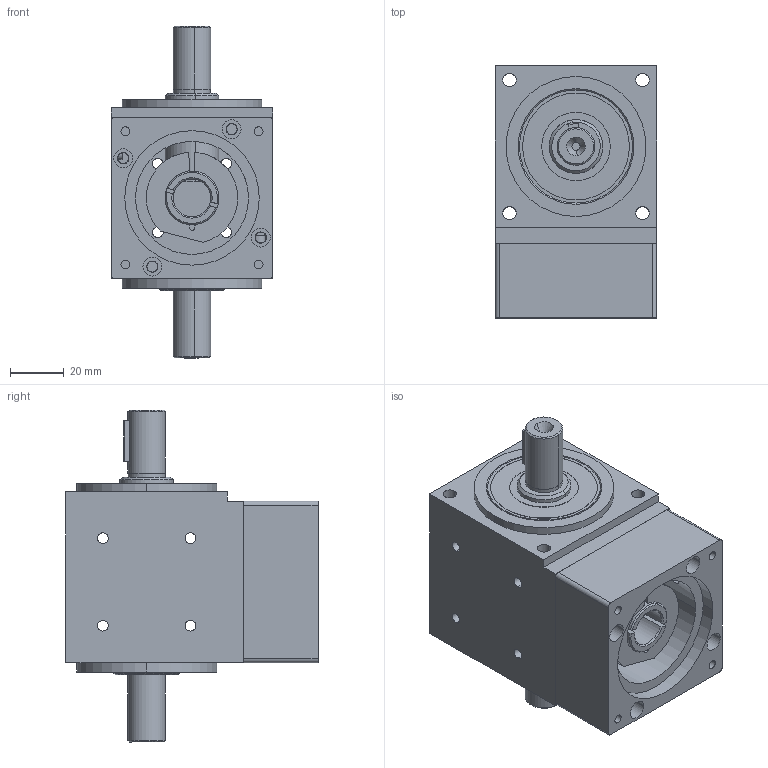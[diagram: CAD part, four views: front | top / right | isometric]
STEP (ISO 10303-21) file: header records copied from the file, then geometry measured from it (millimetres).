
FILE_DESCRIPTION (( 'STEP AP203' ), '1' );
FILE_NAME ('60D-05¤ñ.STEP', '2018-05-09T01:06:04', ( 'user' ), ( '' ), 'SwSTEP 2.0', 'SolidWorks 2014', '' );
FILE_SCHEMA (( 'CONFIG_CONTROL_DESIGN' ));
Length unit declared in the file: millimetre
Products named in the file (1): 60D-05比
Bounding box: 60 x 93.7 x 123.4 mm (x, y, z)
Surface area: 51230 mm2 (no closed solid volume)
Topology: 0 solids, 9 shells, 168 faces, 514 edges, 362 vertices
Faces by surface type: cylinder 107, plane 43, cone 18
Entity records: 6157 total; most frequent: CARTESIAN_POINT 1260, DIRECTION 1115, ORIENTED_EDGE 847, EDGE_CURVE 514, AXIS2_PLACEMENT_3D 449, VERTEX_POINT 362, CIRCLE 280, EDGE_LOOP 227
